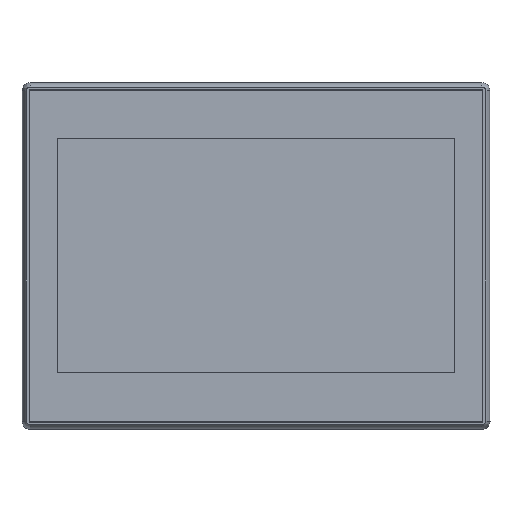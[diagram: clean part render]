
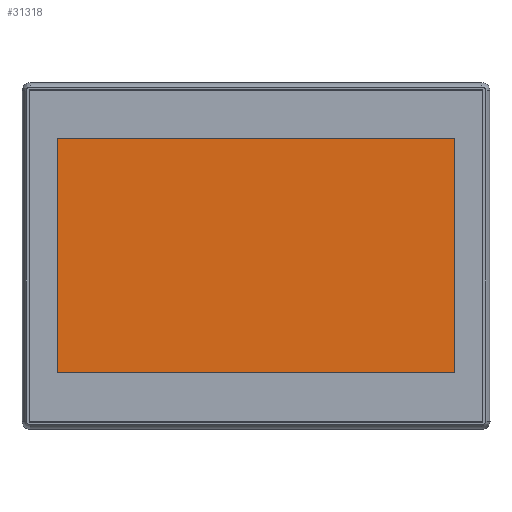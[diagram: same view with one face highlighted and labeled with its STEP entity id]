
A CAD part, top view. The second image highlights one B-rep face of the part: STEP entity #31318.
In plain terms, the highlighted planar face has unit normal (0, 0, 1).
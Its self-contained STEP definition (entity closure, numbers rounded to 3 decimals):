
#612 = VERTEX_POINT ( 'NONE', #22915 ) ;
#1076 = CARTESIAN_POINT ( 'NONE',  ( 81.433, -48.824, -1.45 ) ) ;
#1727 = ORIENTED_EDGE ( 'NONE', *, *, #17840, .T. ) ;
#1927 = VECTOR ( 'NONE', #33640, 1000. ) ;
#2014 = CARTESIAN_POINT ( 'NONE',  ( 0., 0., -1.45 ) ) ;
#2392 = PLANE ( 'NONE',  #5418 ) ;
#3192 = ORIENTED_EDGE ( 'NONE', *, *, #20117, .T. ) ;
#4048 = LINE ( 'NONE', #22678, #20049 ) ;
#5027 = FACE_OUTER_BOUND ( 'NONE', #25325, .T. ) ;
#5418 = AXIS2_PLACEMENT_3D ( 'NONE', #2014, #39120, #5616 ) ;
#5523 = CARTESIAN_POINT ( 'NONE',  ( 81.433, -48.824, -1.45 ) ) ;
#5616 = DIRECTION ( 'NONE',  ( 1., 0., 0. ) ) ;
#12238 = VERTEX_POINT ( 'NONE', #36414 ) ;
#13411 = ORIENTED_EDGE ( 'NONE', *, *, #29934, .T. ) ;
#14761 = VECTOR ( 'NONE', #31723, 1000. ) ;
#14971 = LINE ( 'NONE', #36643, #1927 ) ;
#16865 = EDGE_CURVE ( 'NONE', #612, #12238, #14971, .T. ) ;
#17840 = EDGE_CURVE ( 'NONE', #39108, #21744, #25691, .T. ) ;
#20049 = VECTOR ( 'NONE', #38133, 1000. ) ;
#20117 = EDGE_CURVE ( 'NONE', #21744, #612, #23173, .T. ) ;
#21744 = VERTEX_POINT ( 'NONE', #1076 ) ;
#22490 = CARTESIAN_POINT ( 'NONE',  ( -93.647, -48.824, -1.45 ) ) ;
#22678 = CARTESIAN_POINT ( 'NONE',  ( -93.647, 54.256, -1.45 ) ) ;
#22915 = CARTESIAN_POINT ( 'NONE',  ( 81.433, 54.256, -1.45 ) ) ;
#23173 = LINE ( 'NONE', #5523, #28636 ) ;
#25325 = EDGE_LOOP ( 'NONE', ( #13411, #1727, #3192, #29958 ) ) ;
#25691 = LINE ( 'NONE', #22490, #14761 ) ;
#28636 = VECTOR ( 'NONE', #32408, 1000. ) ;
#29934 = EDGE_CURVE ( 'NONE', #12238, #39108, #4048, .T. ) ;
#29958 = ORIENTED_EDGE ( 'NONE', *, *, #16865, .T. ) ;
#31318 = ADVANCED_FACE ( 'NONE', ( #5027 ), #2392, .T. ) ;
#31723 = DIRECTION ( 'NONE',  ( 1., 0., 0. ) ) ;
#32408 = DIRECTION ( 'NONE',  ( 0., 1., 0. ) ) ;
#33640 = DIRECTION ( 'NONE',  ( -1., 0., 0. ) ) ;
#36414 = CARTESIAN_POINT ( 'NONE',  ( -93.647, 54.256, -1.45 ) ) ;
#36643 = CARTESIAN_POINT ( 'NONE',  ( 81.433, 54.256, -1.45 ) ) ;
#38133 = DIRECTION ( 'NONE',  ( 0., -1., 0. ) ) ;
#38887 = CARTESIAN_POINT ( 'NONE',  ( -93.647, -48.824, -1.45 ) ) ;
#39108 = VERTEX_POINT ( 'NONE', #38887 ) ;
#39120 = DIRECTION ( 'NONE',  ( 0., 0., 1. ) ) ;
